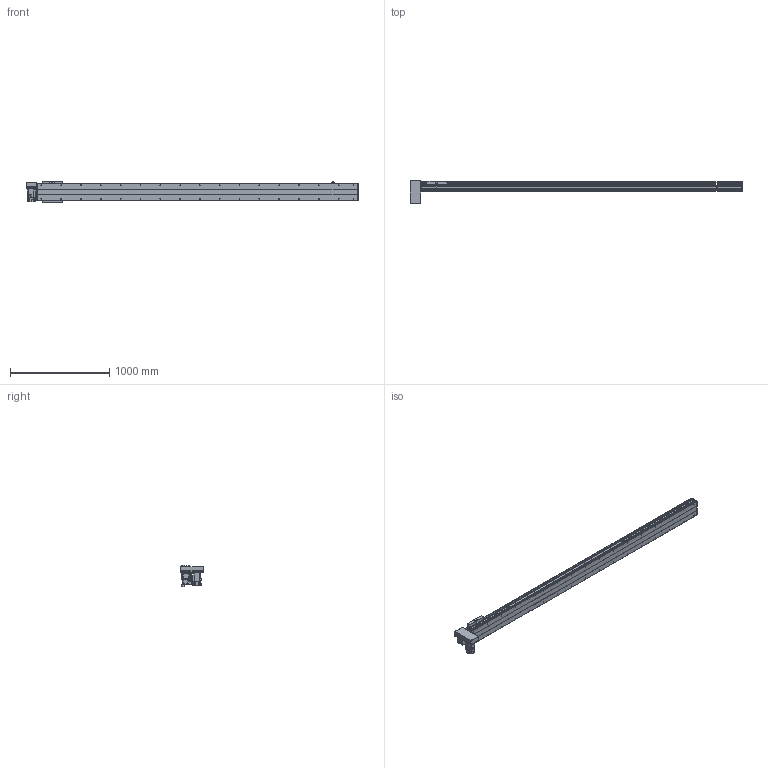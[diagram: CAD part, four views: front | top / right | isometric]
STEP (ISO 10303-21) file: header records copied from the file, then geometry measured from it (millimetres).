
FILE_DESCRIPTION(/* description */ ('STEP AP214'),/* implementation_level */ '2;1');
FILE_NAME(/* name */ 'PBS200-P40-S2850-RD-T75-C1-N(0)',/* time_stamp */ '2022-06-11T09:32:23+02:00',/* author */ ('License CC BY-ND 4.0'),/* organization */ ('CADENAS'),/* preprocessor_version */ 'ST-DEVELOPER v18.102',/* originating_system */ 'PARTsolutions',/* authorisation */ ' ');
FILE_SCHEMA (('AUTOMOTIVE_DESIGN {1 0 10303 214 3 1 1}'));
Length unit declared in the file: millimetre
Products named in the file (7): PBS200-P40-S2850-RD-T75-C1-N(0); PBS200_sensor; PBS200_plant; PBS200_sliser; T75-p1; PBS200T-RD_motors; PBS200-S2850()_body
Assembly tree (8 placements, depth 2):
  PBS200-P40-S2850-RD-T75-C1-N(0)
    PBS200_sensor  x3
    PBS200_plant
    PBS200_sliser
    T75-p1
    PBS200T-RD_motors
    PBS200-S2850()_body
Bounding box: 3350 x 230 x 221 mm (x, y, z)
Volume: 22789599.6 mm3; surface area: 3640860.2 mm2
Topology: 8 solids, 8 shells, 974 faces, 2464 edges, 1602 vertices
Faces by surface type: plane 592, cylinder 316, cone 66
Full cylindrical faces by diameter (mm): 2.459 x6, 3.242 x4, 4.5 x6, 4.917 x4, 5 x6, 6 x7, 6.6 x8, 6.647 x38, 8 x6, 10 x4, 12 x8, 38 x2, 40 x1, 70 x1
Entity records: 25661 total; most frequent: DIRECTION 4543, CARTESIAN_POINT 4354, ORIENTED_EDGE 4090, EDGE_CURVE 2045, AXIS2_PLACEMENT_3D 1615, VERTEX_POINT 1426, LINE 1313, VECTOR 1313
